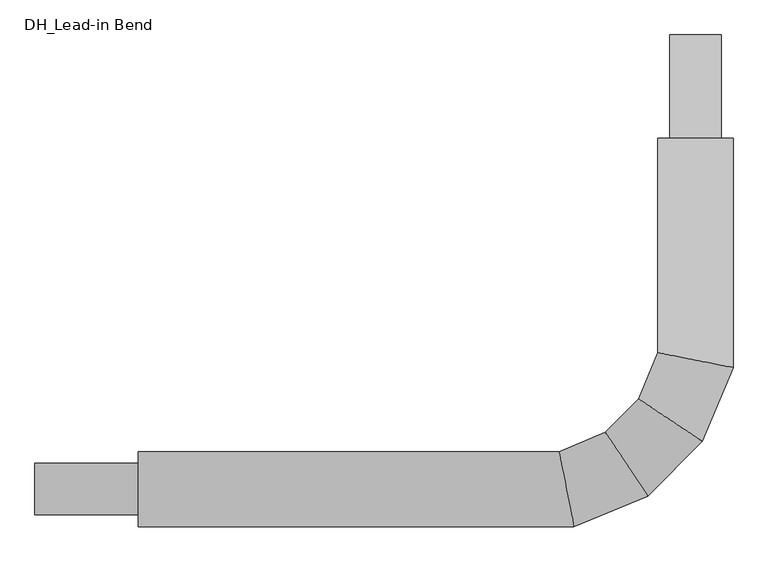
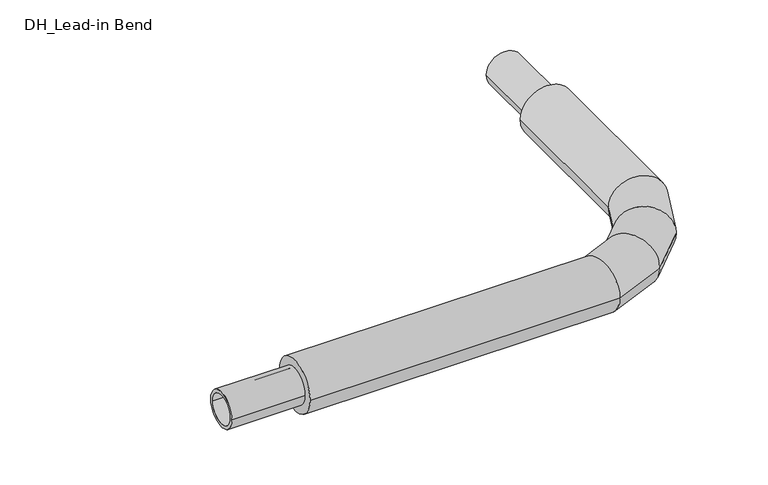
"""IFC4 building model written with IfcOpenShell, lengths in millimetres: pipe fitting geometry, DH_Lead-in Bend : RVT/RVX/RTX UNO 11 Heating."""

from ifc_helpers import new_model, si_unit, point, frame, origin, origin_2d, place, context, project, spatial, circle_curve, ellipse_curve, trimmed, segment, composite_curve, outline, extrude, source, transform, mapped, element, save
from ifc_brep_helpers import plane_surface, cylinder_surface, advanced_brep


def dh_lead_in_bend_b3935c15(model_context):
    return source(origin(), model_context, "Body", "SolidModel", [
        advanced_brep(
        [(-1350.0, -91.0, 0.0), (-1350.0, 91.0, 0.0), (-294.3989746, -91.0, 0.0), (-330.6010254, 91.0, 0.0), (91.0, 850.0, 0.0), (-91.0, 850.0, 0.0), (-91.0, 330.6010254, 0.0), (91.0, 294.3989746, 0.0), (-115.35082, -16.8358261, 0.0), (-218.4455385, 137.4563238, 0.0), (16.8358261, 115.35082, 0.0), (-137.4563238, 218.4455385, 0.0)],
        [
            (0, 1, circle_curve(frame((-1350.0, 0.0, 0.0), z_axis=(-1.0, 0.0, 0.0), x_axis=(0.0, 1.0, 0.0)), 91.0)),
            (1, 0, circle_curve(frame((-1350.0, 0.0, 0.0), z_axis=(-1.0, 0.0, 0.0), x_axis=(0.0, 1.0, 0.0)), 91.0)),
            (0, 2),
            (2, 3, ellipse_curve(frame((-312.5, 0.0, 0.0), z_axis=(-0.9807852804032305, -0.1950903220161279, 0.0), x_axis=(-0.19509032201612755, 0.9807852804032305, 0.0)), 92.7827954, 91.0)),
            (3, 1),
            (3, 2, ellipse_curve(frame((-312.5, 0.0, 0.0), z_axis=(-0.9807852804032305, -0.1950903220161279, 0.0), x_axis=(-0.19509032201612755, 0.9807852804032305, 0.0)), 92.7827954, 91.0)),
            (4, 5, circle_curve(frame((0.0, 850.0, 0.0), z_axis=(0.0, 1.0, 0.0), x_axis=(-1.0, 0.0, 0.0)), 91.0)),
            (5, 4, circle_curve(frame((0.0, 850.0, 0.0), z_axis=(0.0, 1.0, 0.0), x_axis=(-1.0, 0.0, 0.0)), 91.0)),
            (6, 7, ellipse_curve(frame((0.0, 312.5, 0.0), z_axis=(0.1950903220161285, 0.9807852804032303, 0.0), x_axis=(0.9807852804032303, -0.19509032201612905, 0.0)), 92.7827954, 91.0)),
            (7, 4),
            (5, 6),
            (7, 6, ellipse_curve(frame((0.0, 312.5, 0.0), z_axis=(0.1950903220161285, 0.9807852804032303, 0.0), x_axis=(0.9807852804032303, -0.19509032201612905, 0.0)), 92.7827954, 91.0)),
            (2, 8),
            (8, 9, ellipse_curve(frame((-166.8981793, 60.3102488, 0.0), z_axis=(-0.8314696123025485, -0.5555702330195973, 0.0), x_axis=(-0.5555702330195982, 0.8314696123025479, 0.0)), 92.7827954, 91.0)),
            (9, 3),
            (9, 8, ellipse_curve(frame((-166.8981793, 60.3102488, 0.0), z_axis=(-0.8314696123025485, -0.5555702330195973, 0.0), x_axis=(-0.5555702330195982, 0.8314696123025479, 0.0)), 92.7827954, 91.0)),
            (8, 10),
            (10, 11, ellipse_curve(frame((-60.3102488, 166.8981793, 0.0), z_axis=(-0.5555702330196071, -0.8314696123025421, 0.0), x_axis=(-0.8314696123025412, 0.5555702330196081, 0.0)), 92.7827954, 91.0)),
            (11, 9),
            (11, 10, ellipse_curve(frame((-60.3102488, 166.8981793, 0.0), z_axis=(-0.5555702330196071, -0.8314696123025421, 0.0), x_axis=(-0.8314696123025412, 0.5555702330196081, 0.0)), 92.7827954, 91.0)),
            (10, 7),
            (6, 11),
        ],
        [
            plane_surface(frame((-1350.0, 0.0, 0.0), z_axis=(-1.0, 0.0, 0.0), x_axis=(0.0, 0.0, 1.0))),
            cylinder_surface(frame((-1350.0, 0.0, 0.0), z_axis=(-1.0, 0.0, 0.0), x_axis=(0.0, 1.0, 0.0)), 91.0),
            plane_surface(frame((0.0, 850.0, 0.0), z_axis=(0.0, 1.0, 0.0), x_axis=(0.0, 0.0, 1.0))),
            cylinder_surface(frame((0.0, 312.5, 0.0), z_axis=(0.0, -1.0, 0.0), x_axis=(-1.0, 0.0, 0.0)), 91.0),
            cylinder_surface(frame((-312.5, 0.0, 0.0), z_axis=(-0.9238795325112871, -0.382683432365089, 0.0), x_axis=(-0.382683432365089, 0.9238795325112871, 0.0)), 91.0),
            cylinder_surface(frame((-166.8981793, 60.3102488, 0.0), z_axis=(-0.7071067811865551, -0.7071067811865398, 0.0), x_axis=(-0.7071067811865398, 0.7071067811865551, 0.0)), 91.0),
            cylinder_surface(frame((-60.3102488, 166.8981793, 0.0), z_axis=(-0.3826834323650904, -0.9238795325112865, 0.0), x_axis=(-0.9238795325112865, 0.3826834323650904, 0.0)), 91.0),
        ],
        [
            (0, [[1, 2]]),
            (1, [[-1, 3, 4, 5]]),
            (1, [[-2, -5, 6, -3]]),
            (2, [[7, 8]]),
            (3, [[9, 10, -8, 11]]),
            (3, [[12, -11, -7, -10]]),
            (4, [[-4, 13, 14, 15]]),
            (4, [[-6, -15, 16, -13]]),
            (5, [[-14, 17, 18, 19]]),
            (5, [[-16, -19, 20, -17]]),
            (6, [[-18, 21, -9, 22]]),
            (6, [[-20, -22, -12, -21]]),
        ],
    ),
        extrude(outline(composite_curve([segment(trimmed(circle_curve(origin_2d(), 62.5), [point((-62.5, 0.0))], [point((62.5, 0.0))], False, "CARTESIAN"), True, "CONTINUOUS"), segment(trimmed(circle_curve(origin_2d(), 62.5), [point((62.5, 0.0))], [point((-62.5, 0.0))], False, "CARTESIAN"), True, "CONTINUOUS")], self_intersect=False), holes=[composite_curve([segment(trimmed(circle_curve(origin_2d(), 51.1), [point((-51.1, 0.0))], [point((51.1, 0.0))], True, "CARTESIAN"), True, "CONTINUOUS"), segment(trimmed(circle_curve(origin_2d(), 51.1), [point((51.1, 0.0))], [point((-51.1, 0.0))], True, "CARTESIAN"), True, "CONTINUOUS")], self_intersect=False)]), frame((-1600.0, 0.0, 0.0), z_axis=(1.0, 0.0, 0.0), x_axis=(0.0, 1.0, 0.0)), (0.0, 0.0, 1.0), 250.0),
        extrude(outline(composite_curve([segment(trimmed(circle_curve(origin_2d(), 62.5), [point((0.0, 62.5))], [point((0.0, -62.5))], False, "CARTESIAN"), True, "CONTINUOUS"), segment(trimmed(circle_curve(origin_2d(), 62.5), [point((0.0, -62.5))], [point((0.0, 62.5))], False, "CARTESIAN"), True, "CONTINUOUS")], self_intersect=False), holes=[composite_curve([segment(trimmed(circle_curve(origin_2d(), 51.1), [point((0.0, 51.1))], [point((0.0, -51.1))], True, "CARTESIAN"), True, "CONTINUOUS"), segment(trimmed(circle_curve(origin_2d(), 51.1), [point((0.0, -51.1))], [point((0.0, 51.1))], True, "CARTESIAN"), True, "CONTINUOUS")], self_intersect=False)]), frame((0.0, 850.0, 0.0), z_axis=(0.0, 1.0, 0.0), x_axis=(0.0, 0.0, 1.0)), (0.0, 0.0, 1.0), 250.0),
    ])


if __name__ == "__main__":
    model = new_model("IFC4")
    model_context = context("Model", 3, world=origin())
    ifc_project = project(units=[si_unit("LENGTHUNIT", "METRE", prefix="MILLI")], contexts=[model_context])
    site = spatial("IfcSite", under=ifc_project)
    building = spatial("IfcBuilding", under=site)
    placement = place(None, origin())
    dh_lead_in_bend_shape = dh_lead_in_bend_b3935c15(model_context)
    element("IfcPipeFitting", 1, ObjectType="DH_Lead-in Bend : RVT/RVX/RTX UNO 11 Heating", at=placement, inside=building, context=model_context, shape_type="MappedRepresentation", body=[
        mapped(dh_lead_in_bend_shape, transform((0.0, 0.0, 0.0), x_axis=(1.0, 0.0, 0.0), y_axis=(0.0, 1.0, 0.0), z_axis=(0.0, 0.0, 1.0))),
    ])
    save(model, "model.ifc")
